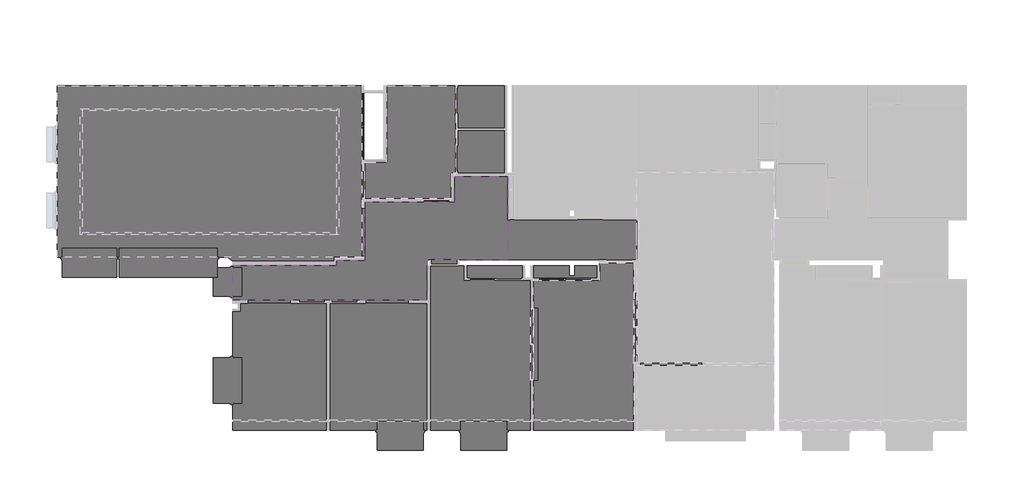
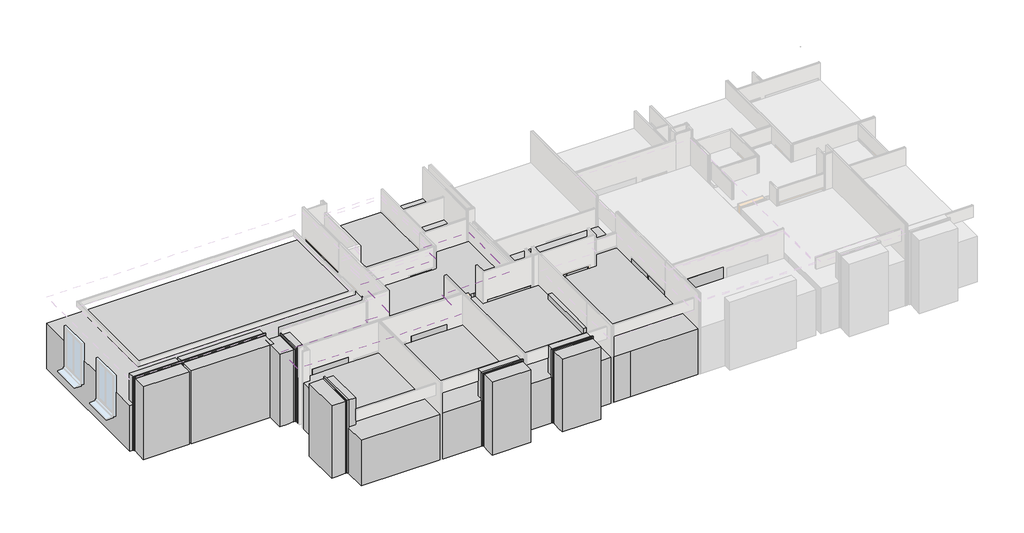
# One storey, part 5 of 6: 32 proxies, 1 covering, 1 furniture element.
"""IFC4 building model written with IfcOpenShell, lengths in millimetres."""

from ifc_helpers import new_model, si_unit, frame, origin, origin_with_axes, place, context, project, spatial, polyline, outline, extrude, faceted_brep, transform, mapped, element, save
from components import furniture_7373fb7a

model = new_model("IFC4")

# Units and contexts
model_context = context("Model", 3, world=origin())
ifc_project = project(units=[si_unit("LENGTHUNIT", "METRE", prefix="MILLI")], contexts=[model_context])

# Site, building, storey
site = spatial("IfcSite", under=ifc_project)
building = spatial("IfcBuilding", under=site)
storey = spatial("IfcBuildingStorey", under=building, Name="0 Mairie RDC 0.00", Elevation=0.0)

# Proxies
placement = place(None, origin())
element("IfcBuildingElementProxy", 1, Name="Pièces - BUREAU COMPTABILITE 19", ObjectType="Pièces - BUREAU COMPTABILITE 19", at=placement, inside=storey, context=model_context, shape_type="SweptSolid", body=[
    extrude(outline(polyline([(-9804.6455383, -13978.5662223), (-12618.5500393, -13978.5662223), (-13304.255006, -13978.5662223), (-13304.255006, -12228.7534329), (-13354.255006, -12228.7534329), (-13354.255006, -9728.7649845), (-13304.255006, -9728.7649845), (-13304.255006, -8754.3718601), (-13304.255006, -8752.7765879), (-13304.255006, -8717.7765879), (-13304.255006, -8232.7637435), (-12058.4196435, -8232.7637435), (-12058.4196435, -8582.7637435), (-11858.4196435, -8582.7637435), (-11858.4196435, -8232.7637435), (-11073.1086334, -8232.7637435), (-11073.1086334, -8717.6130855), (-11003.1086334, -8717.6130855), (-11003.1086334, -8132.7867091), (-9804.6455383, -8132.7867091), (-9804.6455383, -9128.5833837), (-9754.6455383, -9128.5833837), (-9754.6455383, -11626.9881114), (-9754.6455383, -11628.5833837), (-9804.6455383, -11663.5833837), (-9804.6455383, -13978.5662223)])), origin_with_axes(), (0.0, 0.0, 1.0), 2000.0),
])
element("IfcBuildingElementProxy", 2, Name="Pièces - SECRETARIAT GENERAL 20", ObjectType="Pièces - SECRETARIAT GENERAL 20", at=placement, inside=storey, context=model_context, shape_type="SweptSolid", body=[
    extrude(outline(polyline([(-15705.446161, -8232.7637435), (-15705.446161, -8717.779598), (-15635.446161, -8717.779598), (-15635.446161, -8232.7637435), (-13671.849822, -8232.7637435), (-13671.849822, -8752.7765879), (-13404.255006, -8752.7765879), (-13404.255006, -9728.7649845), (-13354.255006, -9728.7649845), (-13354.255006, -12228.7534329), (-13404.255006, -12228.7534329), (-13404.255006, -13978.5662223), (-14238.6355893, -13978.5662223), (-16905.446161, -13978.5662223), (-16905.446161, -9499.0775347), (-16905.446161, -8232.7637435), (-15705.446161, -8232.7637435)])), origin_with_axes(), (0.0, 0.0, 1.0), 2000.0),
])
element("IfcBuildingElementProxy", 3, Name="Pièces - BUREAU MAIRIE 21", ObjectType="Pièces - BUREAU MAIRIE 21", at=placement, inside=storey, context=model_context, shape_type="SweptSolid", body=[
    extrude(outline(polyline([(-20402.1562042, -13978.5662223), (-20402.1562042, -9549.0775347), (-17005.446161, -9549.0775347), (-17005.446161, -13978.5662223), (-20402.1562042, -13978.5662223)])), origin_with_axes(), (0.0, 0.0, 1.0), 2000.0),
])
element("IfcBuildingElementProxy", 4, Name="Pièces - BUREAU ELUS 22", ObjectType="Pièces - BUREAU ELUS 22", at=placement, inside=storey, context=model_context, shape_type="SweptSolid", body=[
    extrude(outline(polyline([(-23778.2803137, -13978.5662223), (-23778.2803137, -13036.9624952), (-23778.2803137, -10630.5073036), (-23778.2803137, -9829.2788136), (-23520.6325674, -9829.2788136), (-23520.6325674, -9549.0775347), (-20502.1562042, -9549.0775347), (-20502.1562042, -13978.5662223), (-23778.2803137, -13978.5662223)])), origin_with_axes(), (0.0, 0.0, 1.0), 2000.0),
])
element("IfcBuildingElementProxy", 5, Name="Pièces - SALLE DU CONSEIL MARIAGE 23", ObjectType="Pièces - SALLE DU CONSEIL MARIAGE 23", at=placement, inside=storey, context=model_context, shape_type="SweptSolid", body=[
    extrude(outline(polyline([(-19282.1823363, -1972.7637486), (-19282.1823363, -2187.7637486), (-19282.1823363, -4593.7637486), (-19282.1823363, -5962.7637435), (-19282.1823363, -7952.7608719), (-20211.3913721, -7952.7608719), (-20211.3913721, -8080.3569594), (-23778.2803137, -8080.3569594), (-23958.2803137, -7953.0211289), (-29887.0149756, -7953.0211289), (-29887.0149756, -1972.7637486), (-19282.1823363, -1972.7637486)])), origin_with_axes(), (0.0, 0.0, 1.0), 2000.0),
])
element("IfcBuildingElementProxy", 6, Name="Pièces - TOILETTES PUBLIQUES 24", ObjectType="Pièces - TOILETTES PUBLIQUES 24", at=placement, inside=storey, context=model_context, shape_type="SweptSolid", body=[
    extrude(outline(polyline([(-14296.7760862, -1972.7637486), (-14296.7760862, -3451.3428344), (-15980.9503686, -3451.3428344), (-15980.9503686, -3521.3428344), (-14296.7760862, -3521.3428344), (-14296.7760862, -5019.9219201), (-14320.6334573, -5019.9219201), (-16166.6269046, -5019.9219201), (-16166.6269046, -5912.7637435), (-19182.1823363, -5912.7637435), (-19182.1823363, -4643.7637486), (-18412.1823363, -4643.7637486), (-18412.1823363, -2224.3590209), (-18412.1823363, -2222.7637486), (-18412.1823363, -2187.7637486), (-18412.1823363, -1972.7637486), (-14296.7760862, -1972.7637486)])), origin_with_axes(), (0.0, 0.0, 1.0), 2000.0),
])
element("IfcBuildingElementProxy", 7, Name="Pièces - DEGAGEMENT 1 26", ObjectType="Pièces - DEGAGEMENT 1 26", at=placement, inside=storey, context=model_context, shape_type="SweptSolid", body=[
    extrude(outline(polyline([(-9708.4471465, -6632.5340392), (-9708.4471465, -8032.7867091), (-9754.6455383, -8032.7867091), (-11038.1086334, -8032.7637435), (-11858.4196435, -8032.7637435), (-12058.4196435, -8032.7637435), (-13354.255006, -8032.7637435), (-13636.849822, -8032.7637435), (-15670.446161, -8032.7637435), (-17005.446161, -8032.7637435), (-17005.446161, -9449.0775347), (-20452.1562042, -9449.0775347), (-23555.6325674, -9449.0775347), (-23778.2803137, -9449.0775347), (-23778.2803137, -9310.0211289), (-23778.2803137, -8230.3569594), (-20211.3913721, -8230.3569594), (-20211.3913721, -8052.7608719), (-19182.1823363, -8052.7608719), (-19182.1823363, -6012.7637435), (-16066.6269046, -6012.7637435), (-16066.6269046, -5119.9219201), (-14202.6238573, -5119.9219201), (-14202.6238573, -6582.5340392), (-14202.6238573, -6633.7824715), (-14132.6238573, -6633.7824715), (-14132.6238573, -6632.5340392), (-9708.4471465, -6632.5340392)])), origin_with_axes(), (0.0, 0.0, 1.0), 2000.0),
])
element("IfcBuildingElementProxy", 8, Name="Generic Models", at=placement, inside=storey, context=model_context, shape_type="SweptSolid", body=[
    extrude(outline(polyline([(-7424.6455383, -11698.5833837), (-9584.6455383, -11698.5833837), (-9584.6455383, -11628.5833837), (-7424.6455383, -11628.5833837), (-7424.6455383, -11698.5833837)])), origin_with_axes(), (0.0, 0.0, 1.0), 2500.0),
])
element("IfcBuildingElementProxy", 9, Name="Generic Models", at=placement, inside=storey, context=model_context, shape_type="SweptSolid", body=[
    extrude(outline(polyline([(-11313.6818197, -8752.6130855), (-13113.6818197, -8752.6130855), (-13113.6818197, -8682.6130855), (-11313.6818197, -8682.6130855), (-11313.6818197, -8752.6130855)])), origin_with_axes(), (0.0, 0.0, 1.0), 2100.0),
])
element("IfcBuildingElementProxy", 10, Name="Generic Models", at=placement, inside=storey, context=model_context, shape_type="SweptSolid", body=[
    extrude(outline(polyline([(-15905.446161, -8232.7637435), (-16905.446161, -8232.7637435), (-16905.446161, -8032.7637435), (-15905.446161, -8032.7637435), (-15905.446161, -8232.7637435)])), origin_with_axes(), (0.0, 0.0, 1.0), 2075.0),
])
element("IfcBuildingElementProxy", 11, Name="Generic Models", at=placement, inside=storey, context=model_context, shape_type="SweptSolid", body=[
    extrude(outline(polyline([(-9704.6455383, -9128.5833837), (-9704.6455383, -11628.5833837), (-9804.6455383, -11628.5833837), (-9804.6455383, -9128.5833837), (-9704.6455383, -9128.5833837)])), origin_with_axes(), (0.0, 0.0, 1.0), 2250.0),
])
element("IfcBuildingElementProxy", 12, Name="Generic Models", at=placement, inside=storey, context=model_context, shape_type="Brep", body=[
    faceted_brep([(-14238.6355893, -14391.5689782, 0.0), (-14238.6355893, -14058.5662223, 35.0), (-14238.6355893, -14078.5662223, 35.0), (-14238.6355893, -14078.5662223, 3185.0), (-14238.6355893, -14658.5662223, 3185.0), (-14238.6355893, -14658.5662223, 0.0), (-15838.6355893, -13658.5662223, 3185.0), (-15838.6355893, -13658.5662223, 35.0), (-15838.6355893, -13978.5662223, 35.0), (-15838.6355893, -13978.5662223, 3185.0), (-14238.6355893, -13658.5662223, 35.0), (-14238.6355893, -13978.5662223, 35.0), (-14188.6355893, -13978.5662223, 35.0), (-14188.6355893, -14028.5662223, 35.0), (-14228.6355893, -14028.5662223, 35.0), (-14228.6355893, -14078.5662223, 35.0), (-15838.6355893, -14058.5662223, 35.0), (-15838.6355893, -14078.5662223, 35.0), (-15848.6355893, -14078.5662223, 35.0), (-15848.6355893, -14028.5662223, 35.0), (-15888.6355893, -14028.5662223, 35.0), (-15888.6355893, -13978.5662223, 35.0), (-14238.6355893, -13658.5662223, 3185.0), (-15838.6355893, -14658.5662223, 3185.0), (-15838.6355893, -14078.5662223, 3185.0), (-15838.6355893, -14658.5662223, 0.0), (-15838.6355893, -14391.5689782, 0.0), (-14188.6355893, -13978.5662223, 3235.0), (-14188.6355893, -14028.5662223, 3235.0), (-15888.6355893, -14028.5662223, 3235.0), (-15848.6355893, -14028.5662223, 3195.0), (-14228.6355893, -14028.5662223, 3195.0), (-14228.6355893, -14078.5662223, 3195.0), (-15848.6355893, -14078.5662223, 3195.0), (-14238.6355893, -13978.5662223, 3185.0), (-15888.6355893, -13978.5662223, 3235.0)], [[[0, 1, 2, 3, 4, 5]], [[6, 7, 8, 9]], [[7, 10, 11, 12, 13, 14, 15, 2, 1, 16, 17, 18, 19, 20, 21, 8]], [[22, 10, 7, 6]], [[23, 4, 3, 24]], [[5, 4, 23, 25]], [[0, 5, 25, 26]], [[1, 0, 26, 16]], [[13, 12, 27, 28]], [[14, 13, 28, 29, 20, 19, 30, 31]], [[15, 14, 31, 32]], [[2, 15, 32, 33, 18, 17, 24, 3]], [[12, 11, 34, 9, 8, 21, 35, 27]], [[28, 27, 35, 29]], [[31, 30, 33, 32]], [[20, 29, 35, 21]], [[30, 19, 18, 33]], [[22, 6, 9, 34]], [[25, 23, 24, 17, 16, 26]], [[10, 22, 34, 11]]]),
])
element("IfcBuildingElementProxy", 13, Name="Generic Models", at=placement, inside=storey, context=model_context, shape_type="Brep", body=[
    faceted_brep([(-14238.6355893, -14391.5689782, 0.0), (-14238.6355893, -14058.5662223, 35.0), (-14238.6355893, -14078.5662223, 35.0), (-14238.6355893, -14078.5662223, 3185.0), (-14238.6355893, -14658.5662223, 3185.0), (-14238.6355893, -14658.5662223, 0.0), (-15838.6355893, -13658.5662223, 3185.0), (-15838.6355893, -13658.5662223, 35.0), (-15838.6355893, -13978.5662223, 35.0), (-15838.6355893, -13978.5662223, 3185.0), (-14238.6355893, -13658.5662223, 35.0), (-14238.6355893, -13978.5662223, 35.0), (-14188.6355893, -13978.5662223, 35.0), (-14188.6355893, -14028.5662223, 35.0), (-14228.6355893, -14028.5662223, 35.0), (-14228.6355893, -14078.5662223, 35.0), (-15838.6355893, -14058.5662223, 35.0), (-15838.6355893, -14078.5662223, 35.0), (-15848.6355893, -14078.5662223, 35.0), (-15848.6355893, -14028.5662223, 35.0), (-15888.6355893, -14028.5662223, 35.0), (-15888.6355893, -13978.5662223, 35.0), (-14238.6355893, -13658.5662223, 3185.0), (-15838.6355893, -14658.5662223, 3185.0), (-15838.6355893, -14078.5662223, 3185.0), (-15838.6355893, -14658.5662223, 0.0), (-15838.6355893, -14391.5689782, 0.0), (-14188.6355893, -13978.5662223, 3235.0), (-14188.6355893, -14028.5662223, 3235.0), (-15888.6355893, -14028.5662223, 3235.0), (-15848.6355893, -14028.5662223, 3195.0), (-14228.6355893, -14028.5662223, 3195.0), (-14228.6355893, -14078.5662223, 3195.0), (-15848.6355893, -14078.5662223, 3195.0), (-14238.6355893, -13978.5662223, 3185.0), (-15888.6355893, -13978.5662223, 3235.0)], [[[0, 1, 2, 3, 4, 5]], [[6, 7, 8, 9]], [[7, 10, 11, 12, 13, 14, 15, 2, 1, 16, 17, 18, 19, 20, 21, 8]], [[22, 10, 7, 6]], [[23, 4, 3, 24]], [[5, 4, 23, 25]], [[0, 5, 25, 26]], [[1, 0, 26, 16]], [[13, 12, 27, 28]], [[14, 13, 28, 29, 20, 19, 30, 31]], [[15, 14, 31, 32]], [[2, 15, 32, 33, 18, 17, 24, 3]], [[12, 11, 34, 9, 8, 21, 35, 27]], [[28, 27, 35, 29]], [[31, 30, 33, 32]], [[20, 29, 35, 21]], [[30, 19, 18, 33]], [[22, 6, 9, 34]], [[25, 23, 24, 17, 16, 26]], [[10, 22, 34, 11]]]),
])
element("IfcBuildingElementProxy", 14, Name="Generic Models", at=placement, inside=storey, context=model_context, shape_type="Brep", body=[
    faceted_brep([(-17138.6355893, -14391.5689782, 0.0), (-17138.6355893, -14058.5662223, 35.0), (-17138.6355893, -14078.5662223, 35.0), (-17138.6355893, -14078.5662223, 3185.0), (-17138.6355893, -14658.5662223, 3185.0), (-17138.6355893, -14658.5662223, 0.0), (-18738.6355893, -13658.5662223, 3185.0), (-18738.6355893, -13658.5662223, 35.0), (-18738.6355893, -13978.5662223, 35.0), (-18738.6355893, -13978.5662223, 3185.0), (-17138.6355893, -13658.5662223, 35.0), (-17138.6355893, -13978.5662223, 35.0), (-17088.6355893, -13978.5662223, 35.0), (-17088.6355893, -14028.5662223, 35.0), (-17128.6355893, -14028.5662223, 35.0), (-17128.6355893, -14078.5662223, 35.0), (-18738.6355893, -14058.5662223, 35.0), (-18738.6355893, -14078.5662223, 35.0), (-18748.6355893, -14078.5662223, 35.0), (-18748.6355893, -14028.5662223, 35.0), (-18788.6355893, -14028.5662223, 35.0), (-18788.6355893, -13978.5662223, 35.0), (-17138.6355893, -13658.5662223, 3185.0), (-18738.6355893, -14658.5662223, 3185.0), (-18738.6355893, -14078.5662223, 3185.0), (-18738.6355893, -14658.5662223, 0.0), (-18738.6355893, -14391.5689782, 0.0), (-17088.6355893, -13978.5662223, 3235.0), (-17088.6355893, -14028.5662223, 3235.0), (-18788.6355893, -14028.5662223, 3235.0), (-18748.6355893, -14028.5662223, 3195.0), (-17128.6355893, -14028.5662223, 3195.0), (-17128.6355893, -14078.5662223, 3195.0), (-18748.6355893, -14078.5662223, 3195.0), (-17138.6355893, -13978.5662223, 3185.0), (-18788.6355893, -13978.5662223, 3235.0)], [[[0, 1, 2, 3, 4, 5]], [[6, 7, 8, 9]], [[7, 10, 11, 12, 13, 14, 15, 2, 1, 16, 17, 18, 19, 20, 21, 8]], [[22, 10, 7, 6]], [[23, 4, 3, 24]], [[5, 4, 23, 25]], [[0, 5, 25, 26]], [[1, 0, 26, 16]], [[13, 12, 27, 28]], [[14, 13, 28, 29, 20, 19, 30, 31]], [[15, 14, 31, 32]], [[2, 15, 32, 33, 18, 17, 24, 3]], [[12, 11, 34, 9, 8, 21, 35, 27]], [[28, 27, 35, 29]], [[31, 30, 33, 32]], [[20, 29, 35, 21]], [[30, 19, 18, 33]], [[22, 6, 9, 34]], [[25, 23, 24, 17, 16, 26]], [[10, 22, 34, 11]]]),
])
element("IfcBuildingElementProxy", 15, Name="Generic Models", at=placement, inside=storey, context=model_context, shape_type="Brep", body=[
    faceted_brep([(-17138.6355893, -14391.5689782, 0.0), (-17138.6355893, -14058.5662223, 35.0), (-17138.6355893, -14078.5662223, 35.0), (-17138.6355893, -14078.5662223, 3185.0), (-17138.6355893, -14658.5662223, 3185.0), (-17138.6355893, -14658.5662223, 0.0), (-18738.6355893, -13658.5662223, 3185.0), (-18738.6355893, -13658.5662223, 35.0), (-18738.6355893, -13978.5662223, 35.0), (-18738.6355893, -13978.5662223, 3185.0), (-17138.6355893, -13658.5662223, 35.0), (-17138.6355893, -13978.5662223, 35.0), (-17088.6355893, -13978.5662223, 35.0), (-17088.6355893, -14028.5662223, 35.0), (-17128.6355893, -14028.5662223, 35.0), (-17128.6355893, -14078.5662223, 35.0), (-18738.6355893, -14058.5662223, 35.0), (-18738.6355893, -14078.5662223, 35.0), (-18748.6355893, -14078.5662223, 35.0), (-18748.6355893, -14028.5662223, 35.0), (-18788.6355893, -14028.5662223, 35.0), (-18788.6355893, -13978.5662223, 35.0), (-17138.6355893, -13658.5662223, 3185.0), (-18738.6355893, -14658.5662223, 3185.0), (-18738.6355893, -14078.5662223, 3185.0), (-18738.6355893, -14658.5662223, 0.0), (-18738.6355893, -14391.5689782, 0.0), (-17088.6355893, -13978.5662223, 3235.0), (-17088.6355893, -14028.5662223, 3235.0), (-18788.6355893, -14028.5662223, 3235.0), (-18748.6355893, -14028.5662223, 3195.0), (-17128.6355893, -14028.5662223, 3195.0), (-17128.6355893, -14078.5662223, 3195.0), (-18748.6355893, -14078.5662223, 3195.0), (-17138.6355893, -13978.5662223, 3185.0), (-18788.6355893, -13978.5662223, 3235.0)], [[[0, 1, 2, 3, 4, 5]], [[6, 7, 8, 9]], [[7, 10, 11, 12, 13, 14, 15, 2, 1, 16, 17, 18, 19, 20, 21, 8]], [[22, 10, 7, 6]], [[23, 4, 3, 24]], [[5, 4, 23, 25]], [[0, 5, 25, 26]], [[1, 0, 26, 16]], [[13, 12, 27, 28]], [[14, 13, 28, 29, 20, 19, 30, 31]], [[15, 14, 31, 32]], [[2, 15, 32, 33, 18, 17, 24, 3]], [[12, 11, 34, 9, 8, 21, 35, 27]], [[28, 27, 35, 29]], [[31, 30, 33, 32]], [[20, 29, 35, 21]], [[30, 19, 18, 33]], [[22, 6, 9, 34]], [[25, 23, 24, 17, 16, 26]], [[10, 22, 34, 11]]]),
])
element("IfcBuildingElementProxy", 16, Name="Generic Models", at=placement, inside=storey, context=model_context, shape_type="Brep", body=[
    faceted_brep([(-24191.2830696, -13036.9624952, 0.0), (-23858.2803137, -13036.9624952, 35.0), (-23878.2803137, -13036.9624952, 35.0), (-23878.2803137, -13036.9624952, 3185.0), (-24458.2803137, -13036.9624952, 3185.0), (-24458.2803137, -13036.9624952, 0.0), (-23458.2803137, -11436.9624952, 3185.0), (-23458.2803137, -11436.9624952, 35.0), (-23778.2803137, -11436.9624952, 35.0), (-23778.2803137, -11436.9624952, 3185.0), (-23458.2803137, -13036.9624952, 35.0), (-23778.2803137, -13036.9624952, 35.0), (-23778.2803137, -13086.9624952, 35.0), (-23828.2803137, -13086.9624952, 35.0), (-23828.2803137, -13046.9624952, 35.0), (-23878.2803137, -13046.9624952, 35.0), (-23858.2803137, -11436.9624952, 35.0), (-23878.2803137, -11436.9624952, 35.0), (-23878.2803137, -11426.9624952, 35.0), (-23828.2803137, -11426.9624952, 35.0), (-23828.2803137, -11386.9624952, 35.0), (-23778.2803137, -11386.9624952, 35.0), (-23458.2803137, -13036.9624952, 3185.0), (-24458.2803137, -11436.9624952, 3185.0), (-23878.2803137, -11436.9624952, 3185.0), (-24458.2803137, -11436.9624952, 0.0), (-24191.2830696, -11436.9624952, 0.0), (-23778.2803137, -13086.9624952, 3235.0), (-23828.2803137, -13086.9624952, 3235.0), (-23828.2803137, -11386.9624952, 3235.0), (-23828.2803137, -11426.9624952, 3195.0), (-23828.2803137, -13046.9624952, 3195.0), (-23878.2803137, -13046.9624952, 3195.0), (-23878.2803137, -11426.9624952, 3195.0), (-23778.2803137, -13036.9624952, 3185.0), (-23778.2803137, -11386.9624952, 3235.0)], [[[0, 1, 2, 3, 4, 5]], [[6, 7, 8, 9]], [[7, 10, 11, 12, 13, 14, 15, 2, 1, 16, 17, 18, 19, 20, 21, 8]], [[22, 10, 7, 6]], [[23, 4, 3, 24]], [[5, 4, 23, 25]], [[0, 5, 25, 26]], [[1, 0, 26, 16]], [[13, 12, 27, 28]], [[14, 13, 28, 29, 20, 19, 30, 31]], [[15, 14, 31, 32]], [[2, 15, 32, 33, 18, 17, 24, 3]], [[12, 11, 34, 9, 8, 21, 35, 27]], [[28, 27, 35, 29]], [[31, 30, 33, 32]], [[20, 29, 35, 21]], [[30, 19, 18, 33]], [[22, 6, 9, 34]], [[25, 23, 24, 17, 16, 26]], [[10, 22, 34, 11]]]),
])
element("IfcBuildingElementProxy", 17, Name="Generic Models", at=placement, inside=storey, context=model_context, shape_type="Brep", body=[
    faceted_brep([(-24191.2830696, -13036.9624952, 0.0), (-23858.2803137, -13036.9624952, 35.0), (-23878.2803137, -13036.9624952, 35.0), (-23878.2803137, -13036.9624952, 3185.0), (-24458.2803137, -13036.9624952, 3185.0), (-24458.2803137, -13036.9624952, 0.0), (-23458.2803137, -11436.9624952, 3185.0), (-23458.2803137, -11436.9624952, 35.0), (-23778.2803137, -11436.9624952, 35.0), (-23778.2803137, -11436.9624952, 3185.0), (-23458.2803137, -13036.9624952, 35.0), (-23778.2803137, -13036.9624952, 35.0), (-23778.2803137, -13086.9624952, 35.0), (-23828.2803137, -13086.9624952, 35.0), (-23828.2803137, -13046.9624952, 35.0), (-23878.2803137, -13046.9624952, 35.0), (-23858.2803137, -11436.9624952, 35.0), (-23878.2803137, -11436.9624952, 35.0), (-23878.2803137, -11426.9624952, 35.0), (-23828.2803137, -11426.9624952, 35.0), (-23828.2803137, -11386.9624952, 35.0), (-23778.2803137, -11386.9624952, 35.0), (-23458.2803137, -13036.9624952, 3185.0), (-24458.2803137, -11436.9624952, 3185.0), (-23878.2803137, -11436.9624952, 3185.0), (-24458.2803137, -11436.9624952, 0.0), (-24191.2830696, -11436.9624952, 0.0), (-23778.2803137, -13086.9624952, 3235.0), (-23828.2803137, -13086.9624952, 3235.0), (-23828.2803137, -11386.9624952, 3235.0), (-23828.2803137, -11426.9624952, 3195.0), (-23828.2803137, -13046.9624952, 3195.0), (-23878.2803137, -13046.9624952, 3195.0), (-23878.2803137, -11426.9624952, 3195.0), (-23778.2803137, -13036.9624952, 3185.0), (-23778.2803137, -11386.9624952, 3235.0)], [[[0, 1, 2, 3, 4, 5]], [[6, 7, 8, 9]], [[7, 10, 11, 12, 13, 14, 15, 2, 1, 16, 17, 18, 19, 20, 21, 8]], [[22, 10, 7, 6]], [[23, 4, 3, 24]], [[5, 4, 23, 25]], [[0, 5, 25, 26]], [[1, 0, 26, 16]], [[13, 12, 27, 28]], [[14, 13, 28, 29, 20, 19, 30, 31]], [[15, 14, 31, 32]], [[2, 15, 32, 33, 18, 17, 24, 3]], [[12, 11, 34, 9, 8, 21, 35, 27]], [[28, 27, 35, 29]], [[31, 30, 33, 32]], [[20, 29, 35, 21]], [[30, 19, 18, 33]], [[22, 6, 9, 34]], [[25, 23, 24, 17, 16, 26]], [[10, 22, 34, 11]]]),
])
element("IfcBuildingElementProxy", 18, Name="Generic Models", at=placement, inside=storey, context=model_context, shape_type="Brep", body=[
    faceted_brep([(-24191.2830696, -9310.0211289, 0.0), (-23858.2803137, -9310.0211289, 35.0), (-23878.2803137, -9310.0211289, 35.0), (-23878.2803137, -9310.0211289, 3185.0), (-24458.2803137, -9310.0211289, 3185.0), (-24458.2803137, -9310.0211289, 0.0), (-23458.2803137, -8310.0211289, 3185.0), (-23458.2803137, -8310.0211289, 35.0), (-23778.2803137, -8310.0211289, 35.0), (-23778.2803137, -8310.0211289, 3185.0), (-23458.2803137, -9310.0211289, 35.0), (-23778.2803137, -9310.0211289, 35.0), (-23778.2803137, -9360.0211289, 35.0), (-23828.2803137, -9360.0211289, 35.0), (-23828.2803137, -9320.0211289, 35.0), (-23878.2803137, -9320.0211289, 35.0), (-23858.2803137, -8310.0211289, 35.0), (-23878.2803137, -8310.0211289, 35.0), (-23878.2803137, -8300.0211289, 35.0), (-23828.2803137, -8300.0211289, 35.0), (-23828.2803137, -8260.0211289, 35.0), (-23778.2803137, -8260.0211289, 35.0), (-23458.2803137, -9310.0211289, 3185.0), (-24458.2803137, -8310.0211289, 3185.0), (-23878.2803137, -8310.0211289, 3185.0), (-24458.2803137, -8310.0211289, 0.0), (-24191.2830696, -8310.0211289, 0.0), (-23778.2803137, -9360.0211289, 3235.0), (-23828.2803137, -9360.0211289, 3235.0), (-23828.2803137, -8260.0211289, 3235.0), (-23828.2803137, -8300.0211289, 3195.0), (-23828.2803137, -9320.0211289, 3195.0), (-23878.2803137, -9320.0211289, 3195.0), (-23878.2803137, -8300.0211289, 3195.0), (-23778.2803137, -9310.0211289, 3185.0), (-23778.2803137, -8260.0211289, 3235.0)], [[[0, 1, 2, 3, 4, 5]], [[6, 7, 8, 9]], [[7, 10, 11, 12, 13, 14, 15, 2, 1, 16, 17, 18, 19, 20, 21, 8]], [[22, 10, 7, 6]], [[23, 4, 3, 24]], [[5, 4, 23, 25]], [[0, 5, 25, 26]], [[1, 0, 26, 16]], [[13, 12, 27, 28]], [[14, 13, 28, 29, 20, 19, 30, 31]], [[15, 14, 31, 32]], [[2, 15, 32, 33, 18, 17, 24, 3]], [[12, 11, 34, 9, 8, 21, 35, 27]], [[28, 27, 35, 29]], [[31, 30, 33, 32]], [[20, 29, 35, 21]], [[30, 19, 18, 33]], [[22, 6, 9, 34]], [[25, 23, 24, 17, 16, 26]], [[10, 22, 34, 11]]]),
])
element("IfcBuildingElementProxy", 19, Name="Generic Models", at=placement, inside=storey, context=model_context, shape_type="Brep", body=[
    faceted_brep([(-24191.2830696, -9310.0211289, 0.0), (-23858.2803137, -9310.0211289, 35.0), (-23878.2803137, -9310.0211289, 35.0), (-23878.2803137, -9310.0211289, 3185.0), (-24458.2803137, -9310.0211289, 3185.0), (-24458.2803137, -9310.0211289, 0.0), (-23458.2803137, -8310.0211289, 3185.0), (-23458.2803137, -8310.0211289, 35.0), (-23778.2803137, -8310.0211289, 35.0), (-23778.2803137, -8310.0211289, 3185.0), (-23458.2803137, -9310.0211289, 35.0), (-23778.2803137, -9310.0211289, 35.0), (-23778.2803137, -9360.0211289, 35.0), (-23828.2803137, -9360.0211289, 35.0), (-23828.2803137, -9320.0211289, 35.0), (-23878.2803137, -9320.0211289, 35.0), (-23858.2803137, -8310.0211289, 35.0), (-23878.2803137, -8310.0211289, 35.0), (-23878.2803137, -8300.0211289, 35.0), (-23828.2803137, -8300.0211289, 35.0), (-23828.2803137, -8260.0211289, 35.0), (-23778.2803137, -8260.0211289, 35.0), (-23458.2803137, -9310.0211289, 3185.0), (-24458.2803137, -8310.0211289, 3185.0), (-23878.2803137, -8310.0211289, 3185.0), (-24458.2803137, -8310.0211289, 0.0), (-24191.2830696, -8310.0211289, 0.0), (-23778.2803137, -9360.0211289, 3235.0), (-23828.2803137, -9360.0211289, 3235.0), (-23828.2803137, -8260.0211289, 3235.0), (-23828.2803137, -8300.0211289, 3195.0), (-23828.2803137, -9320.0211289, 3195.0), (-23878.2803137, -9320.0211289, 3195.0), (-23878.2803137, -8300.0211289, 3195.0), (-23778.2803137, -9310.0211289, 3185.0), (-23778.2803137, -8260.0211289, 3235.0)], [[[0, 1, 2, 3, 4, 5]], [[6, 7, 8, 9]], [[7, 10, 11, 12, 13, 14, 15, 2, 1, 16, 17, 18, 19, 20, 21, 8]], [[22, 10, 7, 6]], [[23, 4, 3, 24]], [[5, 4, 23, 25]], [[0, 5, 25, 26]], [[1, 0, 26, 16]], [[13, 12, 27, 28]], [[14, 13, 28, 29, 20, 19, 30, 31]], [[15, 14, 31, 32]], [[2, 15, 32, 33, 18, 17, 24, 3]], [[12, 11, 34, 9, 8, 21, 35, 27]], [[28, 27, 35, 29]], [[31, 30, 33, 32]], [[20, 29, 35, 21]], [[30, 19, 18, 33]], [[22, 6, 9, 34]], [[25, 23, 24, 17, 16, 26]], [[10, 22, 34, 11]]]),
])
element("IfcBuildingElementProxy", 20, Name="Generic Models", at=placement, inside=storey, context=model_context, shape_type="Brep", body=[
    faceted_brep([(-27823.4832661, -8366.0238848, 0.0), (-27823.4832661, -8033.0211289, 35.0), (-27823.4832661, -8053.0211289, 35.0), (-27823.4832661, -8053.0211289, 3185.0), (-27823.4832661, -8633.0211289, 3185.0), (-27823.4832661, -8633.0211289, 0.0), (-29723.4832661, -7633.0211289, 3185.0), (-29723.4832661, -7633.0211289, 35.0), (-29723.4832661, -7953.0211289, 35.0), (-29723.4832661, -7953.0211289, 3185.0), (-27823.4832661, -7633.0211289, 35.0), (-27823.4832661, -7953.0211289, 35.0), (-27773.4832661, -7953.0211289, 35.0), (-27773.4832661, -8003.0211289, 35.0), (-27813.4832661, -8003.0211289, 35.0), (-27813.4832661, -8053.0211289, 35.0), (-29723.4832661, -8033.0211289, 35.0), (-29723.4832661, -8053.0211289, 35.0), (-29733.4832661, -8053.0211289, 35.0), (-29733.4832661, -8003.0211289, 35.0), (-29773.4832661, -8003.0211289, 35.0), (-29773.4832661, -7953.0211289, 35.0), (-27823.4832661, -7633.0211289, 3185.0), (-29723.4832661, -8633.0211289, 3185.0), (-29723.4832661, -8053.0211289, 3185.0), (-29723.4832661, -8633.0211289, 0.0), (-29723.4832661, -8366.0238848, 0.0), (-27773.4832661, -7953.0211289, 3235.0), (-27773.4832661, -8003.0211289, 3235.0), (-29773.4832661, -8003.0211289, 3235.0), (-29733.4832661, -8003.0211289, 3195.0), (-27813.4832661, -8003.0211289, 3195.0), (-27813.4832661, -8053.0211289, 3195.0), (-29733.4832661, -8053.0211289, 3195.0), (-27823.4832661, -7953.0211289, 3185.0), (-29773.4832661, -7953.0211289, 3235.0)], [[[0, 1, 2, 3, 4, 5]], [[6, 7, 8, 9]], [[7, 10, 11, 12, 13, 14, 15, 2, 1, 16, 17, 18, 19, 20, 21, 8]], [[22, 10, 7, 6]], [[23, 4, 3, 24]], [[5, 4, 23, 25]], [[0, 5, 25, 26]], [[1, 0, 26, 16]], [[13, 12, 27, 28]], [[14, 13, 28, 29, 20, 19, 30, 31]], [[15, 14, 31, 32]], [[2, 15, 32, 33, 18, 17, 24, 3]], [[12, 11, 34, 9, 8, 21, 35, 27]], [[28, 27, 35, 29]], [[31, 30, 33, 32]], [[20, 29, 35, 21]], [[30, 19, 18, 33]], [[22, 6, 9, 34]], [[25, 23, 24, 17, 16, 26]], [[10, 22, 34, 11]]]),
])
element("IfcBuildingElementProxy", 21, Name="Generic Models", at=placement, inside=storey, context=model_context, shape_type="Brep", body=[
    faceted_brep([(-24322.6070707, -8366.0238848, 0.0), (-24322.6070707, -8033.0211289, 35.0), (-24322.6070707, -8053.0211289, 35.0), (-24322.6070707, -8053.0211289, 3185.0), (-24322.6070707, -8633.0211289, 3185.0), (-24322.6070707, -8633.0211289, 0.0), (-27722.6070707, -7633.0211289, 3185.0), (-27722.6070707, -7633.0211289, 35.0), (-27722.6070707, -7953.0211289, 35.0), (-27722.6070707, -7953.0211289, 3185.0), (-24322.6070707, -7633.0211289, 35.0), (-24322.6070707, -7953.0211289, 35.0), (-24272.6070707, -7953.0211289, 35.0), (-24272.6070707, -8003.0211289, 35.0), (-24312.6070707, -8003.0211289, 35.0), (-24312.6070707, -8053.0211289, 35.0), (-27722.6070707, -8033.0211289, 35.0), (-27722.6070707, -8053.0211289, 35.0), (-27732.6070707, -8053.0211289, 35.0), (-27732.6070707, -8003.0211289, 35.0), (-27772.6070707, -8003.0211289, 35.0), (-27772.6070707, -7953.0211289, 35.0), (-24322.6070707, -7633.0211289, 3185.0), (-27722.6070707, -8633.0211289, 3185.0), (-27722.6070707, -8053.0211289, 3185.0), (-27722.6070707, -8633.0211289, 0.0), (-27722.6070707, -8366.0238848, 0.0), (-24272.6070707, -7953.0211289, 3235.0), (-24272.6070707, -8003.0211289, 3235.0), (-27772.6070707, -8003.0211289, 3235.0), (-27732.6070707, -8003.0211289, 3195.0), (-24312.6070707, -8003.0211289, 3195.0), (-24312.6070707, -8053.0211289, 3195.0), (-27732.6070707, -8053.0211289, 3195.0), (-24322.6070707, -7953.0211289, 3185.0), (-27772.6070707, -7953.0211289, 3235.0)], [[[0, 1, 2, 3, 4, 5]], [[6, 7, 8, 9]], [[7, 10, 11, 12, 13, 14, 15, 2, 1, 16, 17, 18, 19, 20, 21, 8]], [[22, 10, 7, 6]], [[23, 4, 3, 24]], [[5, 4, 23, 25]], [[0, 5, 25, 26]], [[1, 0, 26, 16]], [[13, 12, 27, 28]], [[14, 13, 28, 29, 20, 19, 30, 31]], [[15, 14, 31, 32]], [[2, 15, 32, 33, 18, 17, 24, 3]], [[12, 11, 34, 9, 8, 21, 35, 27]], [[28, 27, 35, 29]], [[31, 30, 33, 32]], [[20, 29, 35, 21]], [[30, 19, 18, 33]], [[22, 6, 9, 34]], [[25, 23, 24, 17, 16, 26]], [[10, 22, 34, 11]]]),
])
element("IfcBuildingElementProxy", 22, Name="Generic Models", at=placement, inside=storey, context=model_context, shape_type="SweptSolid", body=[
    extrude(outline(polyline([(-13556.655006, -12228.7649845), (-13556.655006, -9728.7649845), (-13151.855006, -9728.7649845), (-13151.855006, -12228.7649845), (-13556.655006, -12228.7649845)])), origin_with_axes(), (0.0, 0.0, 1.0), 2250.0),
])
element("IfcBuildingElementProxy", 23, Name="Generic Models", at=placement, inside=storey, context=model_context, shape_type="SweptSolid", body=[
    extrude(outline(polyline([(-13304.255006, -9728.7649845), (-13304.255006, -12228.7534329), (-13404.255006, -12228.7534329), (-13404.255006, -9728.7649845), (-13304.255006, -9728.7649845)])), origin_with_axes(), (0.0, 0.0, 1.0), 2080.0),
])
element("IfcBuildingElementProxy", 24, Name="Generic Models", at=placement, inside=storey, context=model_context, shape_type="SweptSolid", body=[
    extrude(outline(polyline([(-15528.6479915, -8682.779598), (-13728.6479915, -8682.779598), (-13728.6479915, -8752.779598), (-15528.6479915, -8752.779598), (-15528.6479915, -8682.779598)])), origin_with_axes(), (0.0, 0.0, 1.0), 2100.0),
])
element("IfcBuildingElementProxy", 25, Name="Generic Models", at=placement, inside=storey, context=model_context, shape_type="SweptSolid", body=[
    extrude(outline(polyline([(-17181.6269046, -5912.7637435), (-16181.6269046, -5912.7637435), (-16181.6269046, -6012.7637435), (-17181.6269046, -6012.7637435), (-17181.6269046, -5912.7637435)])), origin_with_axes(), (0.0, 0.0, 1.0), 2075.0),
])
element("IfcBuildingElementProxy", 26, Name="Generic Models", at=placement, inside=storey, context=model_context, shape_type="SweptSolid", body=[
    extrude(outline(polyline([(-19282.1823363, -4542.7637486), (-19282.1823363, -2222.7637486), (-19212.1823363, -2222.7637486), (-19212.1823363, -4542.7637486), (-19282.1823363, -4542.7637486)])), origin_with_axes(), (0.0, 0.0, 1.0), 2100.0),
])
element("IfcBuildingElementProxy", 27, Name="Generic Models", at=placement, inside=storey, context=model_context, shape_type="SweptSolid", body=[
    extrude(outline(polyline([(-19147.7536837, -9449.0775347), (-17647.7536837, -9449.0775347), (-17647.7536837, -9549.0775347), (-19147.7536837, -9549.0775347), (-19147.7536837, -9449.0775347)])), frame((0.0, 0.0, 1000.0), z_axis=(0.0, 0.0, 1.0), x_axis=(1.0, 0.0, 0.0)), (0.0, 0.0, 1.0), 1250.0),
])
element("IfcBuildingElementProxy", 28, Name="Generic Models", at=placement, inside=storey, context=model_context, shape_type="SweptSolid", body=[
    extrude(outline(polyline([(-23250.7759366, -9449.0775347), (-21750.7759366, -9449.0775347), (-21750.7759366, -9549.0775347), (-23250.7759366, -9549.0775347), (-23250.7759366, -9449.0775347)])), frame((0.0, 0.0, 1000.0), z_axis=(0.0, 0.0, 1.0), x_axis=(1.0, 0.0, 0.0)), (0.0, 0.0, 1.0), 1250.0),
])
element("IfcBuildingElementProxy", 29, Name="Generic Models", at=placement, inside=storey, context=model_context, shape_type="SweptSolid", body=[
    extrude(outline(polyline([(-20517.1562042, -9549.0775347), (-21517.1562042, -9549.0775347), (-21517.1562042, -9449.0775347), (-20517.1562042, -9449.0775347), (-20517.1562042, -9549.0775347)])), origin_with_axes(), (0.0, 0.0, 1.0), 2075.0),
])
element("IfcBuildingElementProxy", 30, Name="Generic Models", at=placement, inside=storey, context=model_context, shape_type="SweptSolid", body=[
    extrude(outline(polyline([(-19387.1562042, -9549.0775347), (-20387.1562042, -9549.0775347), (-20387.1562042, -9449.0775347), (-19387.1562042, -9449.0775347), (-19387.1562042, -9549.0775347)])), origin_with_axes(), (0.0, 0.0, 1.0), 2075.0),
])
element("IfcBuildingElementProxy", 31, Name="Generic Models", at=placement, inside=storey, context=model_context, shape_type="SweptSolid", body=[
    extrude(outline(polyline([(-19182.1823363, -4897.7637435), (-19182.1823363, -5897.7637435), (-19282.1823363, -5897.7637435), (-19282.1823363, -4897.7637435), (-19182.1823363, -4897.7637435)])), origin_with_axes(), (0.0, 0.0, 1.0), 2075.0),
])
element("IfcBuildingElementProxy", 32, Name="Generic Models", at=placement, inside=storey, context=model_context, shape_type="SweptSolid", body=[
    extrude(outline(polyline([(-19282.1823363, -7914.4612155), (-19282.1823363, -6244.4612155), (-19182.1823363, -6244.4612155), (-19182.1823363, -7914.4612155), (-19282.1823363, -7914.4612155)])), origin_with_axes(), (0.0, 0.0, 1.0), 2075.0),
])

# Covering
element("IfcCovering", 33, ObjectType="Plafonds - Plafond composé - A Plafond plaque de platre ba10 (5)", at=placement, inside=storey, context=model_context, shape_type="SweptSolid", body=[
    extrude(outline(polyline([(-23778.2803137, -9449.0775347), (-23778.2803137, -8230.3569594), (-20176.3913721, -8230.3569594), (-20176.3913721, -8052.7608719), (-19182.1823363, -8052.7608719), (-19182.1823363, -6012.7637435), (-16066.6269046, -6012.7637435), (-16066.6269046, -5119.9219201), (-14202.6238573, -5119.9219201), (-14202.6238573, -6679.7637435), (-14202.6238573, -8032.7637435), (-17005.446161, -8032.7637435), (-17005.446161, -9449.0775347), (-23778.2803137, -9449.0775347)])), frame((0.0, 0.0, 2400.0), z_axis=(0.0, 0.0, 1.0), x_axis=(1.0, 0.0, 0.0)), (0.0, 0.0, 1.0), 40.0),
    extrude(outline(polyline([(-23778.2803137, -9449.0775347), (-23778.2803137, -8230.3569594), (-20176.3913721, -8230.3569594), (-20176.3913721, -8052.7608719), (-19182.1823363, -8052.7608719), (-19182.1823363, -6012.7637435), (-16066.6269046, -6012.7637435), (-16066.6269046, -5119.9219201), (-14202.6238573, -5119.9219201), (-14202.6238573, -6679.7637435), (-14202.6238573, -8032.7637435), (-17005.446161, -8032.7637435), (-17005.446161, -9449.0775347), (-23778.2803137, -9449.0775347)])), frame((0.0, 0.0, 2440.0), z_axis=(0.0, 0.0, 1.0), x_axis=(1.0, 0.0, 0.0)), (0.0, 0.0, 1.0), 10.0),
    extrude(outline(polyline([(1777.6156007, -6633.7824715), (1777.6156007, -8731.1038426), (1127.9012584, -8731.1038426), (1127.9012584, -6633.7824715), (1777.6156007, -6633.7824715)])), frame((0.0, 0.0, 2400.0), z_axis=(0.0, 0.0, 1.0), x_axis=(1.0, 0.0, 0.0)), (0.0, 0.0, 1.0), 40.0),
    extrude(outline(polyline([(1777.6156007, -6633.7824715), (1777.6156007, -8731.1038426), (1127.9012584, -8731.1038426), (1127.9012584, -6633.7824715), (1777.6156007, -6633.7824715)])), frame((0.0, 0.0, 2440.0), z_axis=(0.0, 0.0, 1.0), x_axis=(1.0, 0.0, 0.0)), (0.0, 0.0, 1.0), 10.0),
    extrude(outline(polyline([(-13946.7760862, -8032.7637435), (-13946.7760862, -6632.5340392), (-9708.4471465, -6632.5340392), (-9708.4471465, -8032.7637435), (-13946.7760862, -8032.7637435)])), frame((0.0, 0.0, 2400.0), z_axis=(0.0, 0.0, 1.0), x_axis=(1.0, 0.0, 0.0)), (0.0, 0.0, 1.0), 40.0),
    extrude(outline(polyline([(-13946.7760862, -8032.7637435), (-13946.7760862, -6632.5340392), (-9708.4471465, -6632.5340392), (-9708.4471465, -8032.7637435), (-13946.7760862, -8032.7637435)])), frame((0.0, 0.0, 2440.0), z_axis=(0.0, 0.0, 1.0), x_axis=(1.0, 0.0, 0.0)), (0.0, 0.0, 1.0), 10.0),
    extrude(outline(polyline([(-3018.9176162, -6633.7824715), (-3018.9176162, -5237.6533676), (-1717.7552543, -5237.6533676), (-1717.7552543, -6633.7824715), (1057.9012584, -6633.7824715), (1057.9012584, -8731.1038426), (-1106.3922233, -8731.1038426), (-1106.3922233, -8038.2685444), (-4927.496702, -8038.2685444), (-4927.496702, -6633.7824715), (-3018.9176162, -6633.7824715)])), frame((0.0, 0.0, 2400.0), z_axis=(0.0, 0.0, 1.0), x_axis=(1.0, 0.0, 0.0)), (0.0, 0.0, 1.0), 40.0),
    extrude(outline(polyline([(-3018.9176162, -6633.7824715), (-3018.9176162, -5237.6533676), (-1717.7552543, -5237.6533676), (-1717.7552543, -6633.7824715), (1057.9012584, -6633.7824715), (1057.9012584, -8731.1038426), (-1106.3922233, -8731.1038426), (-1106.3922233, -8038.2685444), (-4927.496702, -8038.2685444), (-4927.496702, -6633.7824715), (-3018.9176162, -6633.7824715)])), frame((0.0, 0.0, 2440.0), z_axis=(0.0, 0.0, 1.0), x_axis=(1.0, 0.0, 0.0)), (0.0, 0.0, 1.0), 10.0),
])

# Furniture
furniture_shape = furniture_7373fb7a(model_context)
element("IfcFurniture", 34, ObjectType="Mobilier - Table basse - 01 - 82 x 84 x 37 cm - Blanc brillant", at=placement, inside=storey, context=model_context, shape_type="MappedRepresentation", body=[
    mapped(furniture_shape, transform((-9277.496702, -5449.2154166, 0.0), x_axis=(1.0, 0.0, 0.0), y_axis=(0.0, 1.0, 0.0), z_axis=(0.0, 0.0, 1.0))),
])

save(model, "model.ifc")
